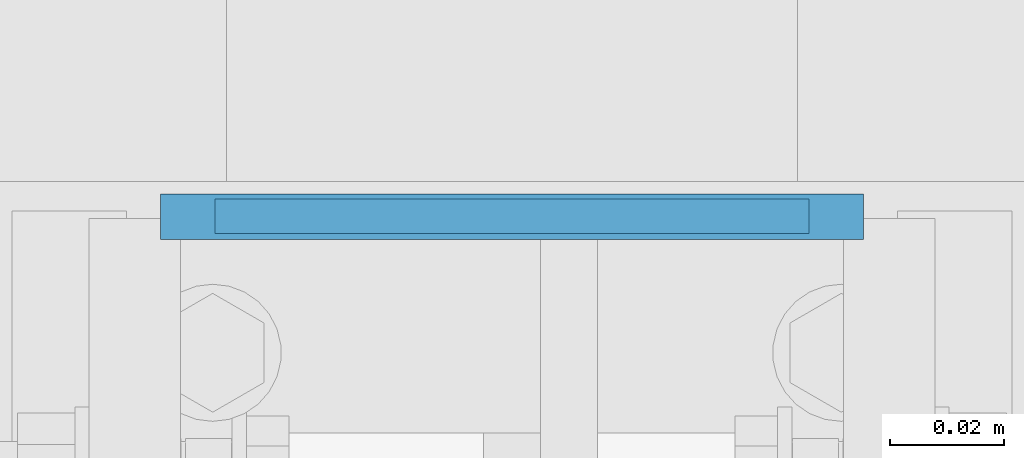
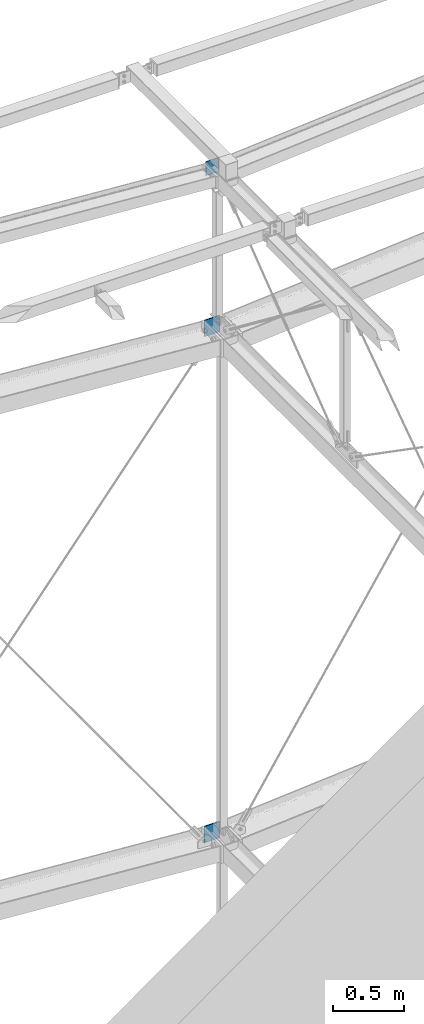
# One storey, part 71 of 271: 3 beams, 3 elements without a shape of their own.
"""IFC2X3 building model written with IfcOpenShell, lengths in millimetres."""

from ifc_helpers import new_model, si_unit, frame, origin_with_axes, origin_2d_with_axis, place, context, subcontext, project, spatial, rectangle, extrude, material, type_object, element, aggregate, save


model = new_model("IFC2X3")

# Units and contexts
model_context = context("Model", 3, precision=1e-05, world=origin_with_axes())
body_context = subcontext(model_context, "Body", "Model", "MODEL_VIEW")
ifc_project = project(units=[si_unit("LENGTHUNIT", "METRE", prefix="MILLI"), si_unit("AREAUNIT", "SQUARE_METRE"), si_unit("VOLUMEUNIT", "CUBIC_METRE"), si_unit("MASSUNIT", "GRAM", prefix="KILO"), si_unit("TIMEUNIT", "SECOND"), si_unit("PLANEANGLEUNIT", "RADIAN"), si_unit("SOLIDANGLEUNIT", "STERADIAN"), si_unit("THERMODYNAMICTEMPERATUREUNIT", "DEGREE_CELSIUS"), si_unit("LUMINOUSINTENSITYUNIT", "LUMEN")], contexts=[model_context])

# Site, building, storey
site_placement = place(None, origin_with_axes())
site = spatial("IfcSite", under=ifc_project, at=site_placement, Name="Undefined", CompositionType="ELEMENT")
building_placement = place(site_placement, origin_with_axes())
building = spatial("IfcBuilding", under=site, at=building_placement, Name="Undefined", CompositionType="ELEMENT")
storey_placement = place(building_placement, origin_with_axes())
storey = spatial("IfcBuildingStorey", under=building, at=storey_placement, Name="Undefined", CompositionType="ELEMENT", Elevation=0.0)

# Assembly, beam
assembly_1_placement = place(storey_placement, origin_with_axes())
assembly_1 = element("IfcElementAssembly", 1, at=assembly_1_placement, inside=storey, AssemblyPlace="NOTDEFINED", PredefinedType="RIGID_FRAME")
ifc_material = material(Name="STEEL/S355JR")
beam_type_1 = type_object("IfcBeamType", Name="BL6*120", PredefinedType="NOTDEFINED")
beam_1_placement = place(assembly_1_placement, frame((6400.37568709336, 3842.90117412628, 20004.3499999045), z_axis=(0.0, 0.0, -1.0), x_axis=(-1.0, 0.0, 1.38777878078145e-17)))
beam_1 = element("IfcBeam", 2, at=beam_1_placement, type_object=beam_type_1, material=ifc_material, Name="BLACHA", ObjectType="BL6*120", context=body_context, shape_type="SweptSolid", body=[
    extrude(rectangle(XDim=6.0, YDim=120.0, at=origin_2d_with_axis()), frame((104.0, 0.0, 0.0), z_axis=(-1.0, 0.0, 1.38777878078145e-17), x_axis=(0.0, -1.0, 0.0)), (0.0, 0.0, 1.0), 104.0),
])
aggregate(assembly_1, [beam_1])

assembly_2_placement = place(storey_placement, origin_with_axes())
assembly_2 = element("IfcElementAssembly", 3, at=assembly_2_placement, inside=storey, AssemblyPlace="NOTDEFINED", PredefinedType="RIGID_FRAME")
beam_type_2 = type_object("IfcBeamType", Name="BL8*140", PredefinedType="NOTDEFINED")
beam_2_placement = place(assembly_2_placement, frame((6409.87568709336, 3842.79740054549, 18644.3499999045), z_axis=(0.0, 0.0, -1.0), x_axis=(-1.0, 0.0, 1.38777878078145e-17)))
beam_2 = element("IfcBeam", 4, at=beam_2_placement, type_object=beam_type_2, material=ifc_material, Name="BLACHA", ObjectType="BL8*140", context=body_context, shape_type="SweptSolid", body=[
    extrude(rectangle(XDim=8.0, YDim=140.0, at=origin_2d_with_axis()), frame((123.0, 0.0, 0.0), z_axis=(-1.0, 0.0, 1.38777878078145e-17), x_axis=(0.0, -1.0, 0.0)), (0.0, 0.0, 1.0), 123.0),
])
aggregate(assembly_2, [beam_2])

assembly_3_placement = place(storey_placement, origin_with_axes())
assembly_3 = element("IfcElementAssembly", 5, at=assembly_3_placement, inside=storey, AssemblyPlace="NOTDEFINED", PredefinedType="RIGID_FRAME")
beam_3_placement = place(assembly_3_placement, frame((6409.87568709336, 3842.79740054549, 14324.3499999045), z_axis=(0.0, 0.0, -1.0), x_axis=(-1.0, 0.0, 1.38777878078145e-17)))
beam_3 = element("IfcBeam", 6, at=beam_3_placement, type_object=beam_type_2, material=ifc_material, Name="BLACHA", ObjectType="BL8*140", context=body_context, shape_type="SweptSolid", body=[
    extrude(rectangle(XDim=8.0, YDim=140.0, at=origin_2d_with_axis()), frame((123.0, 0.0, 0.0), z_axis=(-1.0, 0.0, 1.38777878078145e-17), x_axis=(0.0, -1.0, 0.0)), (0.0, 0.0, 1.0), 123.0),
])
aggregate(assembly_3, [beam_3])

save(model, "model.ifc")
